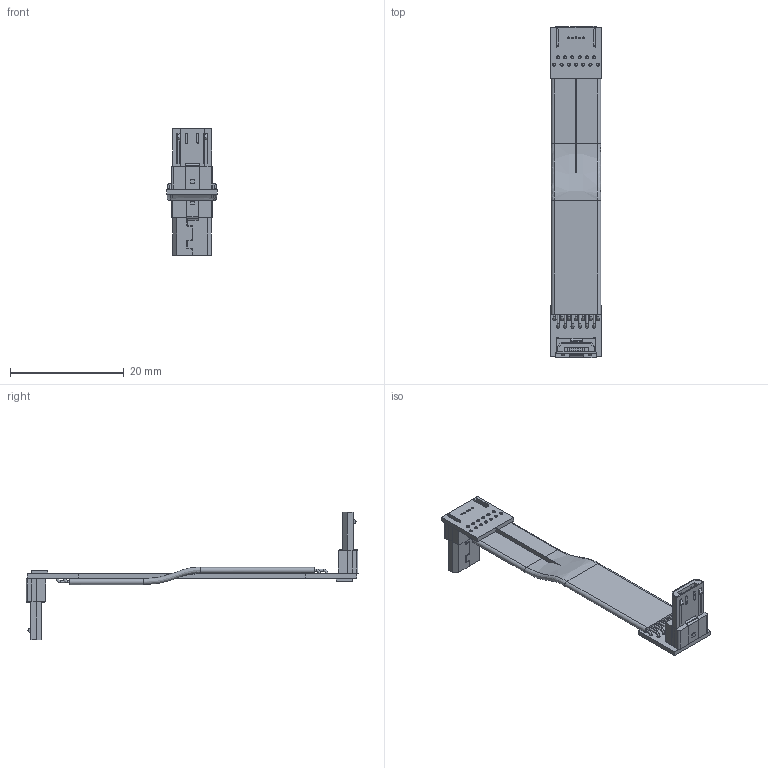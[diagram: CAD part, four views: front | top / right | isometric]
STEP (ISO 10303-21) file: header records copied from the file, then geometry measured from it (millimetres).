
FILE_DESCRIPTION(('Open CASCADE Model'),'2;1');
FILE_NAME('Open CASCADE Shape Model','2022-04-27T02:14:11',('Author'),( 'Open CASCADE'),'Open CASCADE STEP processor 6.8','Open CASCADE 6.8' ,'Unknown');
FILE_SCHEMA(('AUTOMOTIVE_DESIGN { 1 0 10303 214 1 1 1 1 }'));
Length unit declared in the file: millimetre
Products named in the file (34): PCB; Board; Open CASCADE STEP translator 6.8 4.1.1; Designator22_1; USB_micro; Designator22; Free-Models; cable13-US1A
Assembly tree (34 placements, depth 3):
  PCB
    Board
      Open CASCADE STEP translator 6.8 4.1.1
    Designator22_1
      USB_micro
    Designator22
      USB_micro
    Free-Models
      cable13-US1A
      cable13-US1A
      cable13-US1A
      cable13-US1A
      cable13-US1A
      cable13-US1A
      cable13-US1A
      cable13-US1A
      cable13-US1A
      cable13-US1A
      cable13-US1A
      cable13-US1A
      cable13-US1A
      cable13-US1A
      cable13-US1A
      cable13-US1A
      cable13-US1A
      cable13-US1A
      cable13-US1A
      cable13-US1A
      cable13-US1A
      cable13-US1A
      cable13-US1A
      cable13-US1A
      cable13-US1A
      cable13-US1A
      cable13-US1A
Bounding box: 8.96 x 58.38 x 22.36 mm (x, y, z)
Volume: 739.6 mm3; surface area: 2827.2 mm2
Topology: 30 solids, 30 shells, 577 faces, 1398 edges, 895 vertices
Faces by surface type: plane 355, cylinder 157, bspline 33, torus 26, extrusion 6
Full cylindrical faces by diameter (mm): 0.35 x10, 0.4 x59, 0.55 x26
Entity records: 16797 total; most frequent: CARTESIAN_POINT 3629, DIRECTION 1968, ORIENTED_EDGE 1904, EDGE_CURVE 952, AXIS2_PLACEMENT_3D 720, VERTEX_POINT 604, VECTOR 528, FACE_BOUND 526
